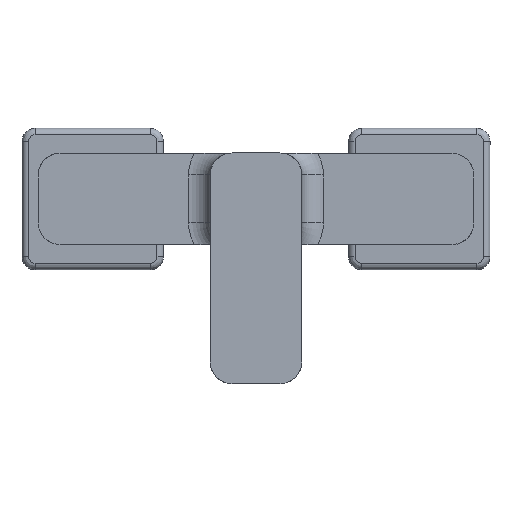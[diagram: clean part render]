
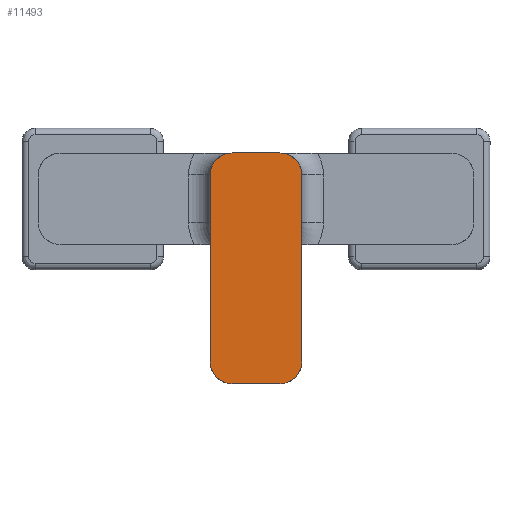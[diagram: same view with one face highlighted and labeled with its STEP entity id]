
A CAD part, top view. The second image highlights one B-rep face of the part: STEP entity #11493.
In plain terms, the highlighted planar face has unit normal (0, 0, 1).
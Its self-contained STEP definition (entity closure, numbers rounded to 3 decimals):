
#536=PLANE('',#12540);
#987=CIRCLE('',#12533,10.);
#988=CIRCLE('',#12536,10.);
#989=CIRCLE('',#12539,10.);
#990=CIRCLE('',#12541,10.);
#1785=FACE_OUTER_BOUND('',#2474,.T.);
#2474=EDGE_LOOP('',(#10225,#10226,#10227,#10228,#10229,#10230,#10231,#10232));
#3067=LINE('',#65314,#3653);
#3078=LINE('',#67721,#3664);
#3081=LINE('',#67729,#3667);
#3084=LINE('',#67737,#3670);
#3653=VECTOR('',#14928,86.);
#3664=VECTOR('',#14961,22.);
#3667=VECTOR('',#14970,86.);
#3670=VECTOR('',#14979,22.);
#5305=VERTEX_POINT('',#65311);
#5306=VERTEX_POINT('',#65313);
#5327=VERTEX_POINT('',#67718);
#5328=VERTEX_POINT('',#67720);
#5329=VERTEX_POINT('',#67724);
#5330=VERTEX_POINT('',#67728);
#5331=VERTEX_POINT('',#67732);
#5332=VERTEX_POINT('',#67736);
#6963=EDGE_CURVE('',#5306,#5305,#3067,.T.);
#6997=EDGE_CURVE('',#5328,#5327,#3078,.T.);
#6999=EDGE_CURVE('',#5329,#5328,#987,.T.);
#7001=EDGE_CURVE('',#5330,#5329,#3081,.T.);
#7003=EDGE_CURVE('',#5331,#5330,#988,.T.);
#7005=EDGE_CURVE('',#5332,#5331,#3084,.T.);
#7007=EDGE_CURVE('',#5305,#5332,#989,.T.);
#7008=EDGE_CURVE('',#5327,#5306,#990,.T.);
#10225=ORIENTED_EDGE('',*,*,#7008,.T.);
#10226=ORIENTED_EDGE('',*,*,#6963,.T.);
#10227=ORIENTED_EDGE('',*,*,#7007,.T.);
#10228=ORIENTED_EDGE('',*,*,#7005,.T.);
#10229=ORIENTED_EDGE('',*,*,#7003,.T.);
#10230=ORIENTED_EDGE('',*,*,#7001,.T.);
#10231=ORIENTED_EDGE('',*,*,#6999,.T.);
#10232=ORIENTED_EDGE('',*,*,#6997,.T.);
#11493=ADVANCED_FACE('',(#1785),#536,.T.);
#12533=AXIS2_PLACEMENT_3D('',#67725,#14965,#14966);
#12536=AXIS2_PLACEMENT_3D('',#67733,#14974,#14975);
#12539=AXIS2_PLACEMENT_3D('',#67740,#14983,#14984);
#12540=AXIS2_PLACEMENT_3D('',#67741,#14985,#14986);
#12541=AXIS2_PLACEMENT_3D('',#67742,#14987,#14988);
#14928=DIRECTION('',(0.,1.,0.));
#14961=DIRECTION('',(1.,0.,0.));
#14965=DIRECTION('center_axis',(0.,0.,
1.));
#14966=DIRECTION('ref_axis',(-1.,0.,0.));
#14970=DIRECTION('',(0.,-1.,0.));
#14974=DIRECTION('center_axis',(0.,0.,
1.));
#14975=DIRECTION('ref_axis',(0.,1.,0.));
#14979=DIRECTION('',(-1.,0.,0.));
#14983=DIRECTION('center_axis',(0.,0.,
1.));
#14984=DIRECTION('ref_axis',(1.,0.,0.));
#14985=DIRECTION('center_axis',(0.,0.,
1.));
#14986=DIRECTION('ref_axis',(0.,-1.,0.));
#14987=DIRECTION('center_axis',(0.,0.,
1.));
#14988=DIRECTION('ref_axis',(0.,-1.,0.));
#65311=CARTESIAN_POINT('',(10.,21.5,89.));
#65313=CARTESIAN_POINT('',(10.,-64.5,89.));
#65314=CARTESIAN_POINT('',(10.,-64.5,89.));
#67718=CARTESIAN_POINT('',(0.,-74.5,89.));
#67720=CARTESIAN_POINT('',(-22.,-74.5,89.));
#67721=CARTESIAN_POINT('',(-22.,-74.5,89.));
#67724=CARTESIAN_POINT('',(-32.,-64.5,89.));
#67725=CARTESIAN_POINT('Origin',(-22.,-64.5,89.));
#67728=CARTESIAN_POINT('',(-32.,21.5,89.));
#67729=CARTESIAN_POINT('',(-32.,21.5,89.));
#67732=CARTESIAN_POINT('',(-22.,31.5,89.));
#67733=CARTESIAN_POINT('Origin',(-22.,21.5,89.));
#67736=CARTESIAN_POINT('',(0.,31.5,89.));
#67737=CARTESIAN_POINT('',(0.,31.5,89.));
#67740=CARTESIAN_POINT('Origin',(0.,21.5,
89.));
#67741=CARTESIAN_POINT('Origin',(-11.,33.62,89.));
#67742=CARTESIAN_POINT('Origin',(0.,-64.5,
89.));
